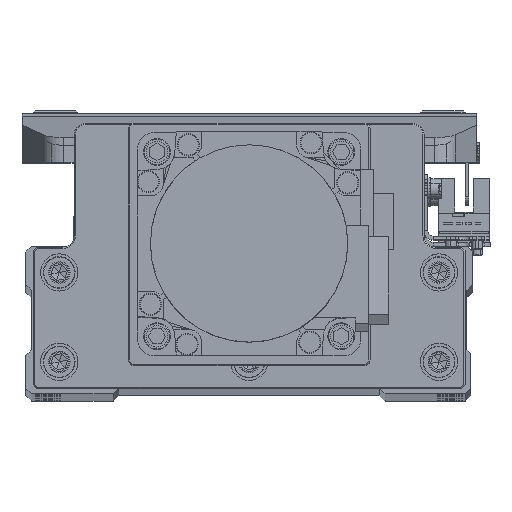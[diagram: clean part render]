
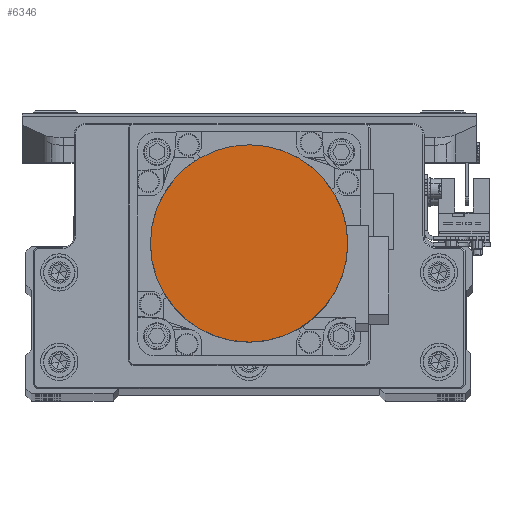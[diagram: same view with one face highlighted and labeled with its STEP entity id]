
A CAD part, top view. The second image highlights one B-rep face of the part: STEP entity #6346.
In plain terms, the highlighted planar face has unit normal (0, 0, 1) as drawn and (0, 0, -1) by its records, which use the part's own axes.
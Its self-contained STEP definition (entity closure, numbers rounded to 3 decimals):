
#1675 = ORIENTED_EDGE ( 'NONE', *, *, #24545, .F. ) ;
#1933 = ORIENTED_EDGE ( 'NONE', *, *, #32528, .F. ) ;
#3055 = DIRECTION ( 'NONE',  ( -1., 0., 0. ) ) ;
#3099 = DIRECTION ( 'NONE',  ( 0., 0., 1. ) ) ;
#3858 = CARTESIAN_POINT ( 'NONE',  ( 26.5, 0., -109.7 ) ) ;
#5510 = EDGE_LOOP ( 'NONE', ( #1675, #1933 ) ) ;
#6346 = ADVANCED_FACE ( 'NONE', ( #42240 ), #9992, .F. ) ;
#6440 = DIRECTION ( 'NONE',  ( 1., 0., 0. ) ) ;
#9992 = PLANE ( 'NONE',  #17253 ) ;
#11368 = VERTEX_POINT ( 'NONE', #24951 ) ;
#13312 = AXIS2_PLACEMENT_3D ( 'NONE', #32237, #3099, #14368 ) ;
#14368 = DIRECTION ( 'NONE',  ( 1., 0., 0. ) ) ;
#17253 = AXIS2_PLACEMENT_3D ( 'NONE', #24359, #38699, #6440 ) ;
#20934 = CARTESIAN_POINT ( 'NONE',  ( 0., 0., -109.7 ) ) ;
#24161 = AXIS2_PLACEMENT_3D ( 'NONE', #20934, #35303, #3055 ) ;
#24359 = CARTESIAN_POINT ( 'NONE',  ( 0., 0., -109.7 ) ) ;
#24545 = EDGE_CURVE ( 'NONE', #11368, #36308, #44425, .T. ) ;
#24951 = CARTESIAN_POINT ( 'NONE',  ( -26.5, 0., -109.7 ) ) ;
#32237 = CARTESIAN_POINT ( 'NONE',  ( 0., 0., -109.7 ) ) ;
#32528 = EDGE_CURVE ( 'NONE', #36308, #11368, #33598, .T. ) ;
#33598 = CIRCLE ( 'NONE', #13312, 26.5 ) ;
#35303 = DIRECTION ( 'NONE',  ( 0., 0., 1. ) ) ;
#36308 = VERTEX_POINT ( 'NONE', #3858 ) ;
#38699 = DIRECTION ( 'NONE',  ( 0., 0., 1. ) ) ;
#42240 = FACE_OUTER_BOUND ( 'NONE', #5510, .T. ) ;
#44425 = CIRCLE ( 'NONE', #24161, 26.5 ) ;
